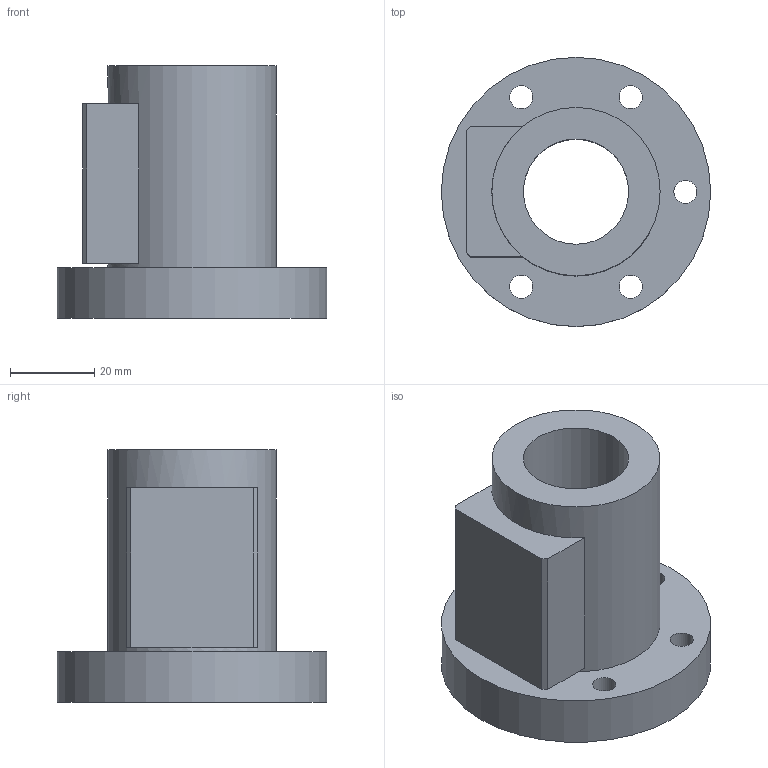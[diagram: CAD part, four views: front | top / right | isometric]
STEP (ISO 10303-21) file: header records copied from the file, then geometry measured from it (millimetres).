
FILE_DESCRIPTION(/* description */ (''),/* implementation_level */ '2;1');
FILE_NAME(/* name */ '25-5B2',/* time_stamp */ '2006-06-16T09:33:28+08:00',/* author */ (''),/* organization */ (''),/* preprocessor_version */ 'ST-DEVELOPER v9',/* originating_system */ 'UGS - NX 4.0',/* authorisation */ '');
FILE_SCHEMA (('CONFIG_CONTROL_DESIGN'));
Length unit declared in the file: millimetre
Products named in the file (1): 25-5B2
Bounding box: 64 x 64 x 60 mm (x, y, z)
Volume: 76416.1 mm3; surface area: 21063.8 mm2
Topology: 1 solids, 1 shells, 28 faces, 61 edges, 42 vertices
Faces by surface type: plane 15, cylinder 13
Full cylindrical faces by diameter (mm): 5.5 x5, 9.5 x5, 25 x1, 40 x1, 64 x1
Entity records: 794 total; most frequent: DIRECTION 130, CARTESIAN_POINT 111, ORIENTED_EDGE 88, EDGE_LOOP 60, AXIS2_PLACEMENT_3D 57, FACE_BOUND 45, EDGE_CURVE 44, VERTEX_POINT 38
